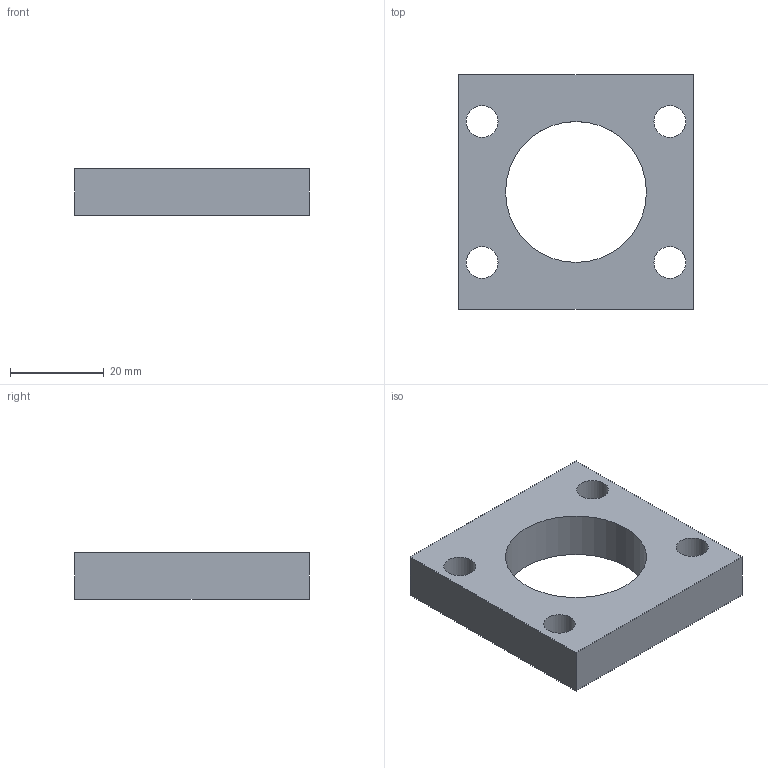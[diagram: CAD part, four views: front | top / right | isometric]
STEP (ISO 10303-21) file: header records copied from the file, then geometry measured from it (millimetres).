
FILE_DESCRIPTION(/* description */ (''),/* implementation_level */ '2;1');
FILE_NAME(/* name */ '3.PC-53.step',/* time_stamp */ '2023-06-19T09:23:06+02:00',/* author */ (''),/* organization */ (''),/* preprocessor_version */ 'ST-DEVELOPER v19.2',/* originating_system */ 'Autodesk Translation Framework v12.6.0.85',/* authorisation */ '');
FILE_SCHEMA (('AUTOMOTIVE_DESIGN { 1 0 10303 214 3 1 1 }'));
Length unit declared in the file: millimetre
Products named in the file (1): 3.PC-53
Bounding box: 50 x 50 x 10 mm (x, y, z)
Volume: 16487.5 mm3; surface area: 7091.9 mm2
Topology: 1 solids, 1 shells, 11 faces, 27 edges, 18 vertices
Faces by surface type: plane 6, cylinder 5
Full cylindrical faces by diameter (mm): 6.779 x4, 30 x1
Entity records: 384 total; most frequent: DIRECTION 61, CARTESIAN_POINT 57, ORIENTED_EDGE 54, EDGE_CURVE 27, AXIS2_PLACEMENT_3D 22, EDGE_LOOP 21, VERTEX_POINT 18, LINE 17
